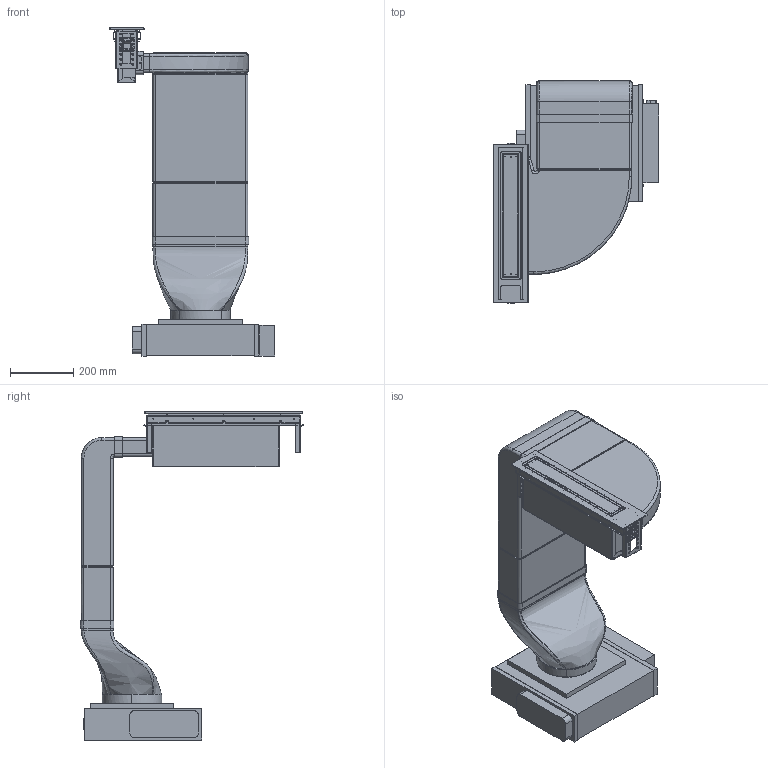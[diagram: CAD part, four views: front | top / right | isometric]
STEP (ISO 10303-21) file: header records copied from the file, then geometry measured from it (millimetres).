
FILE_DESCRIPTION(/* description */ (''),/* implementation_level */ '2;1');
FILE_NAME(/* name */ 'X6400500005-B',/* time_stamp */ '2018-11-29T14:52:58+01:00',/* author */ (''),/* organization */ (''),/* preprocessor_version */ 'ST-DEVELOPER v15',/* originating_system */ '',/* authorisation */ '');
FILE_SCHEMA (('AUTOMOTIVE_DESIGN'));
Length unit declared in the file: millimetre
Products named in the file (1): Document
Bounding box: 523 x 706 x 1038.2 mm (x, y, z)
Volume: 45030510.5 mm3; surface area: 2776557.4 mm2
Topology: 10 solids, 12 shells, 1594 faces, 4118 edges, 2522 vertices
Faces by surface type: plane 905, bspline 689
Entity records: 61183 total; most frequent: CARTESIAN_POINT 35443, ORIENTED_EDGE 8204, EDGE_CURVE 4118, B_SPLINE_CURVE_WITH_KNOTS 2843, VERTEX_POINT 2522, EDGE_LOOP 1814, ADVANCED_FACE 1594, FACE_OUTER_BOUND 1594
